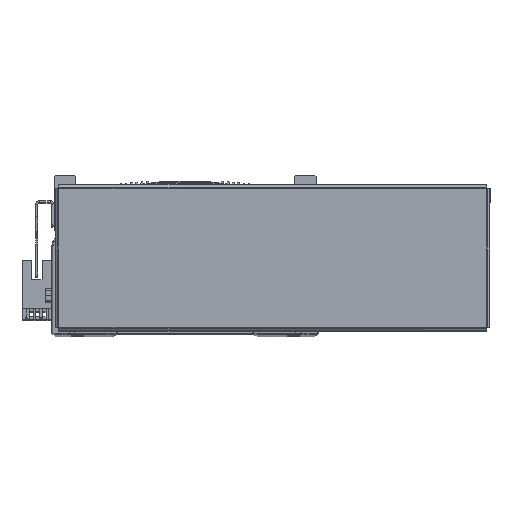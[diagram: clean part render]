
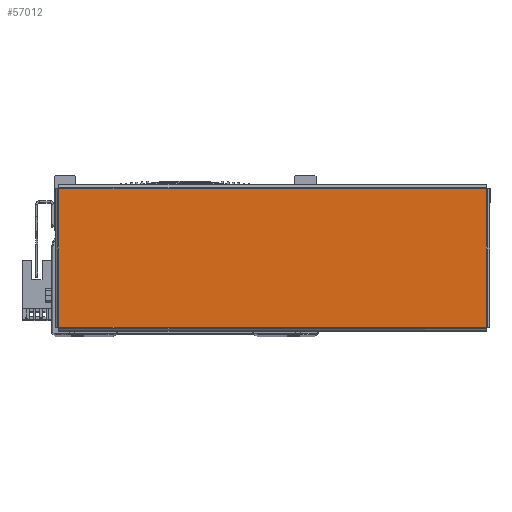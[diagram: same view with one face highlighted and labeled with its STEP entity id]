
A CAD part, top view. The second image highlights one B-rep face of the part: STEP entity #57012.
In plain terms, the highlighted planar face has unit normal (0, 0, 1) as drawn and (0, 0, -1) by its records, which use the part's own axes.
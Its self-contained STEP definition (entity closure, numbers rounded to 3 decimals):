
#8762 = DIRECTION ( 'NONE',  ( -1., 0., 0. ) ) ;
#8764 = DIRECTION ( 'NONE',  ( 0., -1., 0. ) ) ;
#8812 = DIRECTION ( 'NONE',  ( 1., 0., 0. ) ) ;
#8814 = CARTESIAN_POINT ( 'NONE',  ( -97.893, 31.763, -1. ) ) ;
#8825 = CARTESIAN_POINT ( 'NONE',  ( 97.893, -31.763, -1. ) ) ;
#8838 = CARTESIAN_POINT ( 'NONE',  ( 97.863, 31.793, -1. ) ) ;
#9165 = CARTESIAN_POINT ( 'NONE',  ( -97.863, -31.793, -1. ) ) ;
#9184 = DIRECTION ( 'NONE',  ( 0., 1., 0. ) ) ;
#10430 = VERTEX_POINT ( 'NONE', #61696 ) ;
#10442 = VERTEX_POINT ( 'NONE', #61688 ) ;
#10481 = VERTEX_POINT ( 'NONE', #61733 ) ;
#10506 = VERTEX_POINT ( 'NONE', #61735 ) ;
#11743 = FACE_OUTER_BOUND ( 'NONE', #24744, .T. ) ;
#24744 = EDGE_LOOP ( 'NONE', ( #60920, #60924, #60994, #60907 ) ) ;
#33033 = EDGE_CURVE ( 'NONE', #10506, #10481, #65676, .T. ) ;
#33036 = EDGE_CURVE ( 'NONE', #10430, #10506, #65704, .T. ) ;
#33039 = EDGE_CURVE ( 'NONE', #10481, #10442, #65818, .T. ) ;
#33084 = EDGE_CURVE ( 'NONE', #10442, #10430, #65855, .T. ) ;
#53865 = PLANE ( 'NONE',  #69798 ) ;
#53872 = CARTESIAN_POINT ( 'NONE',  ( 0., 0., -1. ) ) ;
#53880 = DIRECTION ( 'NONE',  ( 0., 0., 1. ) ) ;
#53891 = DIRECTION ( 'NONE',  ( 1., 0., 0. ) ) ;
#57012 = ADVANCED_FACE ( 'NONE', ( #11743 ), #53865, .F. ) ;
#60907 = ORIENTED_EDGE ( 'NONE', *, *, #33036, .T. ) ;
#60920 = ORIENTED_EDGE ( 'NONE', *, *, #33033, .T. ) ;
#60924 = ORIENTED_EDGE ( 'NONE', *, *, #33039, .T. ) ;
#60994 = ORIENTED_EDGE ( 'NONE', *, *, #33084, .T. ) ;
#61688 = CARTESIAN_POINT ( 'NONE',  ( -97.863, -31.763, -1. ) ) ;
#61696 = CARTESIAN_POINT ( 'NONE',  ( -97.863, 31.763, -1. ) ) ;
#61733 = CARTESIAN_POINT ( 'NONE',  ( 97.863, -31.763, -1. ) ) ;
#61735 = CARTESIAN_POINT ( 'NONE',  ( 97.863, 31.763, -1. ) ) ;
#65676 = LINE ( 'NONE', #8838, #65694 ) ;
#65694 = VECTOR ( 'NONE', #8764, 1000. ) ;
#65704 = LINE ( 'NONE', #8814, #65741 ) ;
#65741 = VECTOR ( 'NONE', #8812, 1000. ) ;
#65812 = VECTOR ( 'NONE', #8762, 1000. ) ;
#65818 = LINE ( 'NONE', #8825, #65812 ) ;
#65852 = VECTOR ( 'NONE', #9184, 1000. ) ;
#65855 = LINE ( 'NONE', #9165, #65852 ) ;
#69798 = AXIS2_PLACEMENT_3D ( 'NONE', #53872, #53880, #53891 ) ;
